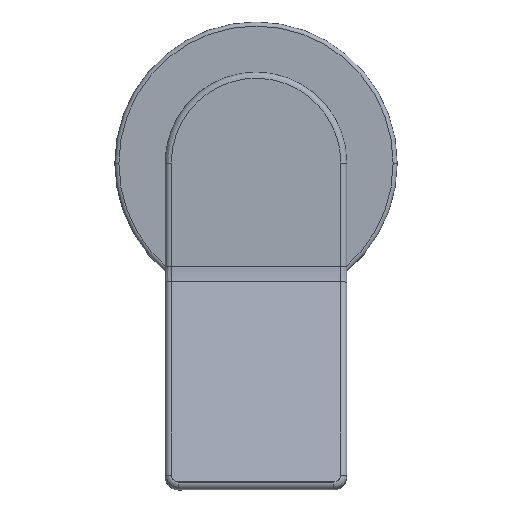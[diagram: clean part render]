
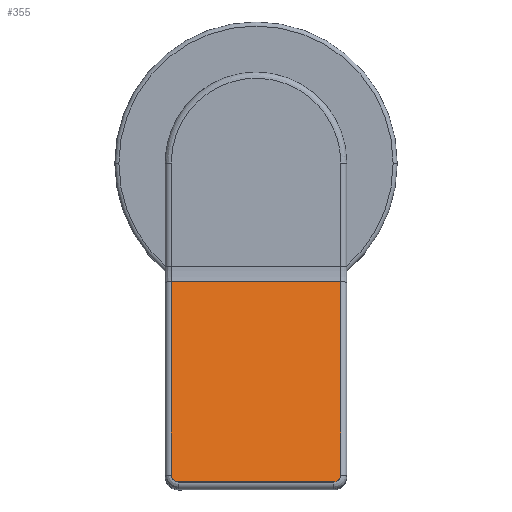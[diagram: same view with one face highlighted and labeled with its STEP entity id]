
A CAD part, top view. The second image highlights one B-rep face of the part: STEP entity #355.
In plain terms, the highlighted planar face has unit normal (0, 0.194, 0.981).
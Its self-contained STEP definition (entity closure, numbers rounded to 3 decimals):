
#13 = EDGE_CURVE ( 'NONE', #142, #533, #1267, .T. ) ;
#142 = VERTEX_POINT ( 'NONE', #1892 ) ;
#172 = CARTESIAN_POINT ( 'NONE',  ( -7.99, -76.213, 136.077 ) ) ;
#176 = EDGE_LOOP ( 'NONE', ( #2233, #1637, #297, #2706, #2742, #2624 ) ) ;
#203 = CARTESIAN_POINT ( 'NONE',  ( -8.54, -76.713, 136.176 ) ) ;
#259 = CARTESIAN_POINT ( 'NONE',  ( -48.969, -76.615, 136.156 ) ) ;
#282 = PLANE ( 'NONE',  #1534 ) ;
#297 = ORIENTED_EDGE ( 'NONE', *, *, #2145, .T. ) ;
#355 = ADVANCED_FACE ( 'NONE', ( #1059 ), #282, .T. ) ;
#365 = CARTESIAN_POINT ( 'NONE',  ( -47.984, -76.915, 136.215 ) ) ;
#392 = CARTESIAN_POINT ( 'NONE',  ( -8.099, -76.345, 136.103 ) ) ;
#406 = VECTOR ( 'NONE', #806, 1000. ) ;
#412 = CARTESIAN_POINT ( 'NONE',  ( -7.814, -75.887, 136.013 ) ) ;
#465 = LINE ( 'NONE', #904, #1229 ) ;
#524 = DIRECTION ( 'NONE',  ( 1., 0., 0. ) ) ;
#533 = VERTEX_POINT ( 'NONE', #2443 ) ;
#535 = CARTESIAN_POINT ( 'NONE',  ( -49.584, -75.811, 135.998 ) ) ;
#546 = EDGE_CURVE ( 'NONE', #1297, #1933, #1029, .T. ) ;
#555 = CARTESIAN_POINT ( 'NONE',  ( -48.2, -76.915, 136.215 ) ) ;
#603 = CARTESIAN_POINT ( 'NONE',  ( -7.888, -76.043, 136.043 ) ) ;
#744 = VERTEX_POINT ( 'NONE', #1123 ) ;
#784 = CARTESIAN_POINT ( 'NONE',  ( -8.936, -76.858, 136.204 ) ) ;
#806 = DIRECTION ( 'NONE',  ( 0., -0.981, 0.194 ) ) ;
#809 = DIRECTION ( 'NONE',  ( 0., 0.981, -0.194 ) ) ;
#856 = LINE ( 'NONE', #1556, #1724 ) ;
#879 = CARTESIAN_POINT ( 'NONE',  ( -7.684, -75.247, 135.886 ) ) ;
#904 = CARTESIAN_POINT ( 'NONE',  ( -49.684, -25.377, 126.043 ) ) ;
#971 = CARTESIAN_POINT ( 'NONE',  ( -49.684, -75.247, 135.886 ) ) ;
#1005 = CARTESIAN_POINT ( 'NONE',  ( -48.409, -76.876, 136.208 ) ) ;
#1029 = LINE ( 'NONE', #2924, #406 ) ;
#1059 = FACE_OUTER_BOUND ( 'NONE', #176, .T. ) ;
#1093 = DIRECTION ( 'NONE',  ( -1., 0., 0. ) ) ;
#1114 = CARTESIAN_POINT ( 'NONE',  ( -9.384, -76.915, 136.215 ) ) ;
#1123 = CARTESIAN_POINT ( 'NONE',  ( -49.684, -27.295, 126.421 ) ) ;
#1139 = CARTESIAN_POINT ( 'NONE',  ( -8.348, -76.589, 136.151 ) ) ;
#1192 = CARTESIAN_POINT ( 'NONE',  ( -48.795, -76.715, 136.176 ) ) ;
#1229 = VECTOR ( 'NONE', #1846, 1000. ) ;
#1267 = B_SPLINE_CURVE_WITH_KNOTS ( 'NONE', 3,
 ( #971, #1916, #2857, #1695, #1460, #535, #2399, #1479, #2823, #2420, #2184, #259, #1192, #2130, #1986, #2490, #2444, #1005, #555, #365 ),
 .UNSPECIFIED., .F., .F.,
 ( 4, 1, 1, 1, 2, 2, 2, 1, 1, 1, 2, 2, 4 ),
 ( 0., 0.125, 0.187, 0.219, 0.234, 0.25, 0.5, 0.625, 0.687, 0.719, 0.734, 0.75, 1. ),
 .UNSPECIFIED. ) ;
#1297 = VERTEX_POINT ( 'NONE', #1546 ) ;
#1410 = EDGE_CURVE ( 'NONE', #533, #1798, #1445, .T. ) ;
#1445 = LINE ( 'NONE', #2149, #2275 ) ;
#1460 = CARTESIAN_POINT ( 'NONE',  ( -49.597, -75.774, 135.99 ) ) ;
#1479 = CARTESIAN_POINT ( 'NONE',  ( -49.57, -75.847, 136.005 ) ) ;
#1534 = AXIS2_PLACEMENT_3D ( 'NONE', #2388, #1698, #809 ) ;
#1546 = CARTESIAN_POINT ( 'NONE',  ( -7.684, -27.295, 126.421 ) ) ;
#1547 = CARTESIAN_POINT ( 'NONE',  ( -7.844, -75.953, 136.026 ) ) ;
#1556 = CARTESIAN_POINT ( 'NONE',  ( -51.184, -27.295, 126.421 ) ) ;
#1590 = B_SPLINE_CURVE_WITH_KNOTS ( 'NONE', 3,
 ( #1959, #1722, #2901, #784, #1740, #2665, #2048, #2317, #203, #1139, #392, #172, #603, #1547, #2767, #412, #1850, #2964, #1606, #2257 ),
 .UNSPECIFIED., .F., .F.,
 ( 4, 1, 1, 1, 2, 2, 2, 1, 1, 1, 2, 2, 4 ),
 ( 0., 0.125, 0.188, 0.219, 0.234, 0.25, 0.5, 0.625, 0.688, 0.719, 0.734, 0.75, 1. ),
 .UNSPECIFIED. ) ;
#1606 = CARTESIAN_POINT ( 'NONE',  ( -7.684, -75.459, 135.928 ) ) ;
#1637 = ORIENTED_EDGE ( 'NONE', *, *, #546, .F. ) ;
#1695 = CARTESIAN_POINT ( 'NONE',  ( -49.626, -75.686, 135.973 ) ) ;
#1698 = DIRECTION ( 'NONE',  ( 0., 0.194, 0.981 ) ) ;
#1722 = CARTESIAN_POINT ( 'NONE',  ( -9.276, -76.915, 136.215 ) ) ;
#1724 = VECTOR ( 'NONE', #1093, 1000. ) ;
#1740 = CARTESIAN_POINT ( 'NONE',  ( -8.847, -76.83, 136.199 ) ) ;
#1798 = VERTEX_POINT ( 'NONE', #1114 ) ;
#1846 = DIRECTION ( 'NONE',  ( 0., 0.981, -0.194 ) ) ;
#1850 = CARTESIAN_POINT ( 'NONE',  ( -7.808, -75.873, 136.01 ) ) ;
#1892 = CARTESIAN_POINT ( 'NONE',  ( -49.684, -75.247, 135.886 ) ) ;
#1916 = CARTESIAN_POINT ( 'NONE',  ( -49.684, -75.353, 135.907 ) ) ;
#1933 = VERTEX_POINT ( 'NONE', #879 ) ;
#1959 = CARTESIAN_POINT ( 'NONE',  ( -9.384, -76.915, 136.215 ) ) ;
#1986 = CARTESIAN_POINT ( 'NONE',  ( -48.664, -76.776, 136.188 ) ) ;
#2048 = CARTESIAN_POINT ( 'NONE',  ( -8.784, -76.807, 136.194 ) ) ;
#2127 = EDGE_CURVE ( 'NONE', #1798, #1933, #1590, .T. ) ;
#2130 = CARTESIAN_POINT ( 'NONE',  ( -48.704, -76.758, 136.184 ) ) ;
#2145 = EDGE_CURVE ( 'NONE', #1297, #744, #856, .T. ) ;
#2149 = CARTESIAN_POINT ( 'NONE',  ( -51.184, -76.915, 136.215 ) ) ;
#2184 = CARTESIAN_POINT ( 'NONE',  ( -49.103, -76.508, 136.135 ) ) ;
#2233 = ORIENTED_EDGE ( 'NONE', *, *, #2127, .T. ) ;
#2240 = EDGE_CURVE ( 'NONE', #142, #744, #465, .T. ) ;
#2257 = CARTESIAN_POINT ( 'NONE',  ( -7.684, -75.247, 135.886 ) ) ;
#2275 = VECTOR ( 'NONE', #524, 1000. ) ;
#2317 = CARTESIAN_POINT ( 'NONE',  ( -8.772, -76.803, 136.193 ) ) ;
#2388 = CARTESIAN_POINT ( 'NONE',  ( -51.184, -25.377, 126.043 ) ) ;
#2399 = CARTESIAN_POINT ( 'NONE',  ( -49.575, -75.836, 136.002 ) ) ;
#2420 = CARTESIAN_POINT ( 'NONE',  ( -49.352, -76.264, 136.087 ) ) ;
#2443 = CARTESIAN_POINT ( 'NONE',  ( -47.984, -76.915, 136.215 ) ) ;
#2444 = CARTESIAN_POINT ( 'NONE',  ( -48.622, -76.793, 136.191 ) ) ;
#2490 = CARTESIAN_POINT ( 'NONE',  ( -48.637, -76.787, 136.19 ) ) ;
#2624 = ORIENTED_EDGE ( 'NONE', *, *, #1410, .T. ) ;
#2665 = CARTESIAN_POINT ( 'NONE',  ( -8.809, -76.817, 136.196 ) ) ;
#2706 = ORIENTED_EDGE ( 'NONE', *, *, #2240, .F. ) ;
#2742 = ORIENTED_EDGE ( 'NONE', *, *, #13, .T. ) ;
#2767 = CARTESIAN_POINT ( 'NONE',  ( -7.826, -75.914, 136.018 ) ) ;
#2823 = CARTESIAN_POINT ( 'NONE',  ( -49.479, -76.075, 136.05 ) ) ;
#2857 = CARTESIAN_POINT ( 'NONE',  ( -49.669, -75.509, 135.938 ) ) ;
#2901 = CARTESIAN_POINT ( 'NONE',  ( -9.117, -76.9, 136.212 ) ) ;
#2924 = CARTESIAN_POINT ( 'NONE',  ( -7.684, -78.442, 136.517 ) ) ;
#2964 = CARTESIAN_POINT ( 'NONE',  ( -7.724, -75.664, 135.968 ) ) ;
